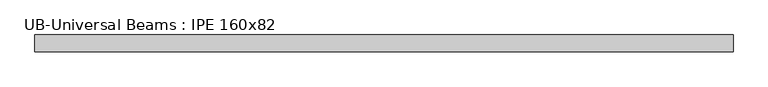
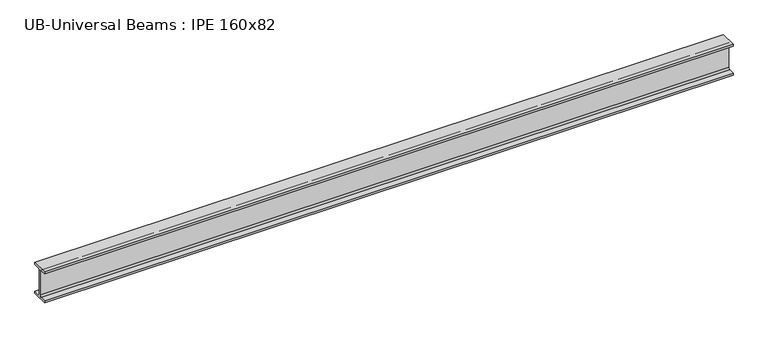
"""IFC4 building model written with IfcOpenShell, lengths in millimetres: beam geometry, UB-Universal Beams : IPE 160x82."""

from ifc_helpers import new_model, si_unit, point, frame, frame_2d, origin, place, context, project, spatial, polyline, circle_curve, trimmed, segment, composite_curve, outline, extrude, source, transform, mapped, element, save


def ub_universal_beams_ipe_160x82_45623c42(model_context):
    return source(origin(), model_context, "Body", "SweptSolid", [
        extrude(outline(composite_curve([segment(polyline([(41.0, -69.8), (41.0, -80.0), (-41.0, -80.0), (-41.0, -69.8), (-11.9, -69.8)]), True, "CONTINUOUS"), segment(trimmed(circle_curve(frame_2d((-11.9, -60.9)), 8.9), [point((-11.9, -69.8))], [point((-3.0, -60.9))], True, "CARTESIAN"), True, "CONTINUOUS"), segment(polyline([(-3.0, -60.9), (-3.0, 60.9)]), True, "CONTINUOUS"), segment(trimmed(circle_curve(frame_2d((-11.9, 60.9)), 8.9), [point((-3.0, 60.9))], [point((-11.9, 69.8))], True, "CARTESIAN"), True, "CONTINUOUS"), segment(polyline([(-11.9, 69.8), (-41.0, 69.8), (-41.0, 80.0), (41.0, 80.0), (41.0, 69.8), (11.9, 69.8)]), True, "CONTINUOUS"), segment(trimmed(circle_curve(frame_2d((11.9, 60.9)), 8.9), [point((11.9, 69.8))], [point((3.0, 60.9))], True, "CARTESIAN"), True, "CONTINUOUS"), segment(polyline([(3.0, 60.9), (3.0, -60.9)]), True, "CONTINUOUS"), segment(trimmed(circle_curve(frame_2d((11.9, -60.9)), 8.9), [point((3.0, -60.9))], [point((11.9, -69.8))], True, "CARTESIAN"), True, "CONTINUOUS"), segment(polyline([(11.9, -69.8), (41.0, -69.8)]), True, "CONTINUOUS")], self_intersect=False)), frame((-1668.3, 0.0, 0.0), z_axis=(1.0, 0.0, 0.0), x_axis=(0.0, 1.0, 0.0)), (0.0, 0.0, 1.0), 3390.3),
    ])


if __name__ == "__main__":
    model = new_model("IFC4")
    model_context = context("Model", 3, world=origin())
    ifc_project = project(units=[si_unit("LENGTHUNIT", "METRE", prefix="MILLI")], contexts=[model_context])
    site = spatial("IfcSite", under=ifc_project)
    building = spatial("IfcBuilding", under=site)
    placement = place(None, origin())
    ub_universal_beams_ipe_160x82_shape = ub_universal_beams_ipe_160x82_45623c42(model_context)
    element("IfcBeam", 1, ObjectType="UB-Universal Beams : IPE 160x82", at=placement, inside=building, context=model_context, shape_type="MappedRepresentation", body=[
        mapped(ub_universal_beams_ipe_160x82_shape, transform((0.0, 0.0, 0.0), x_axis=(1.0, 0.0, 0.0), y_axis=(0.0, 1.0, 0.0), z_axis=(0.0, 0.0, 1.0))),
    ])
    save(model, "model.ifc")
